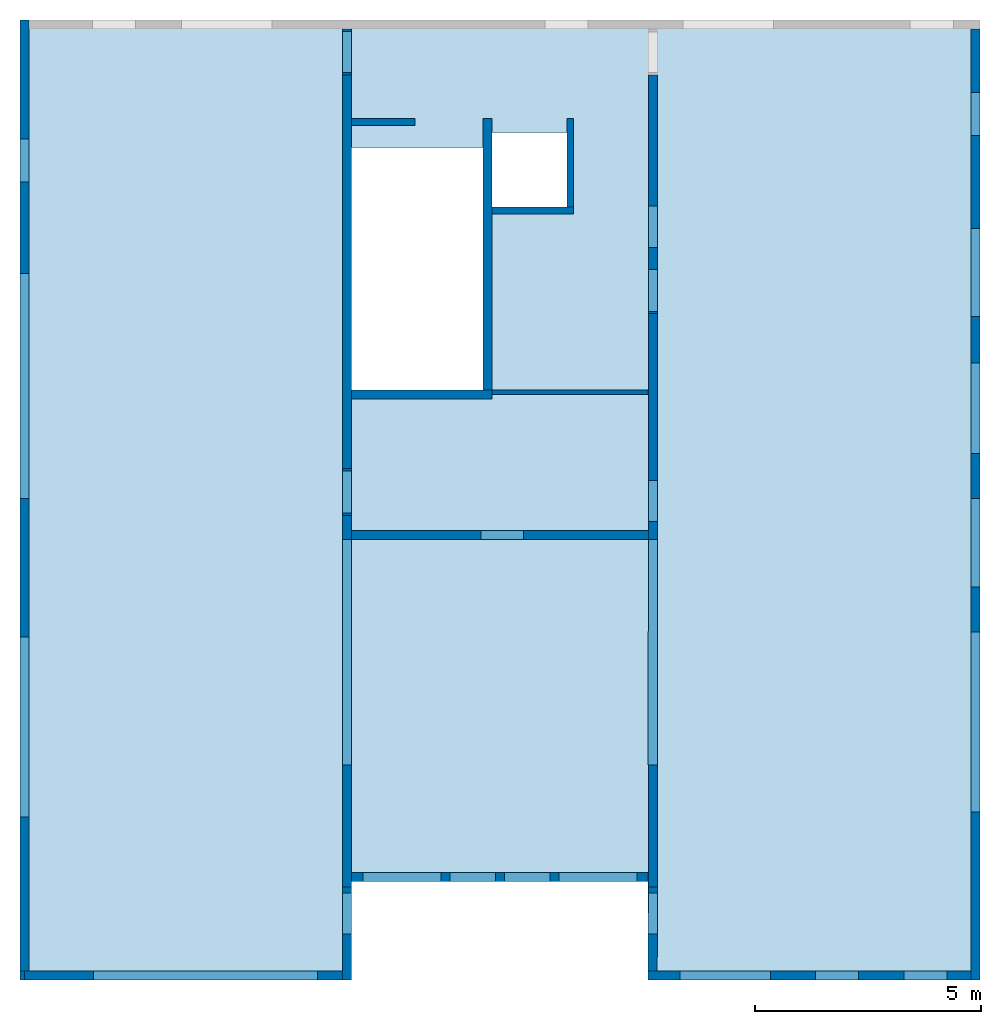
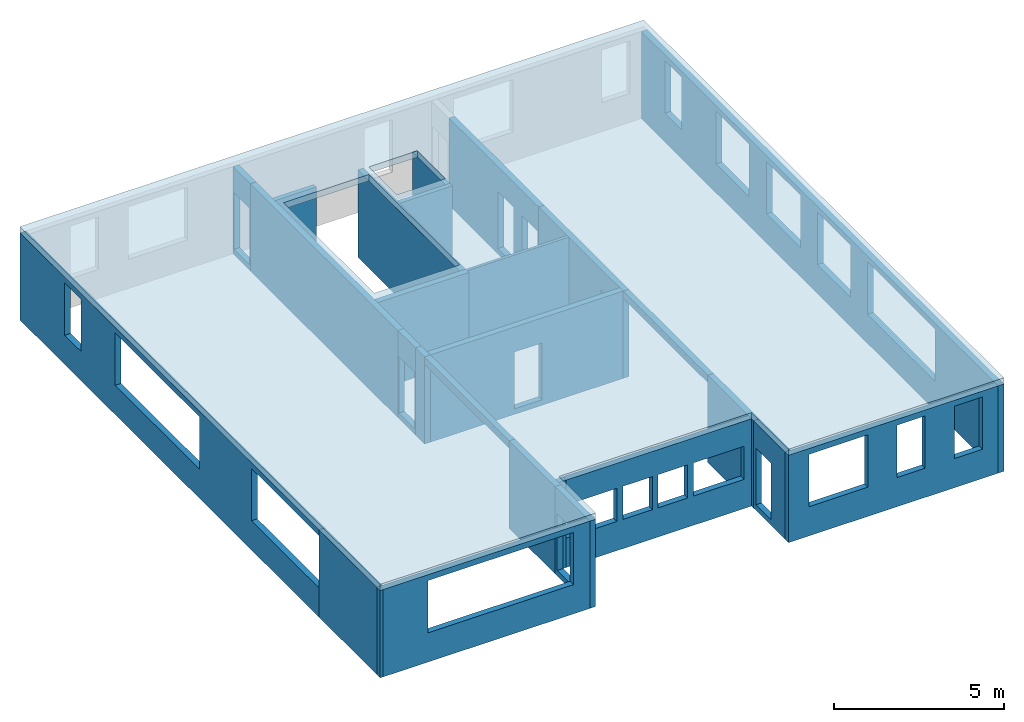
# One storey, part 1 of 2: 25 walls, 2 beams, 1 slab, 27 openings.
"""IFC2X3 building model written with IfcOpenShell, lengths in millimetres."""

from ifc_helpers import new_model, entity, si_unit, converted_unit, frame, frame_2d, origin, origin_with_axes, place, context, subcontext, project, spatial, polyline, rectangle, outline, extrude, material, layer, layer_set, layer_usage, element, save


model = new_model("IFC2X3")

# Units and contexts
model_context = context("Model", 3, precision=1e-05, world=origin())
body_context = subcontext(model_context, "Body", "Model", "MODEL_VIEW")
ifc_project = project(units=[si_unit("LENGTHUNIT", "METRE", prefix="MILLI"), converted_unit("PLANEANGLEUNIT", "DEGREE", entity("IfcPlaneAngleMeasure", 0.0174532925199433), si_unit("PLANEANGLEUNIT", "RADIAN"), dimensions=[0, 0, 0, 0, 0, 0, 0]), si_unit("AREAUNIT", "SQUARE_METRE"), si_unit("VOLUMEUNIT", "CUBIC_METRE")], contexts=[model_context])

# Building, storey
building_placement = place(None, origin())
building = spatial("IfcBuilding", under=ifc_project, at=building_placement, Name="Bâtiment", CompositionType="ELEMENT")
storey_placement = place(building_placement, frame((0.0, 0.0, 14770.0), z_axis=(0.0, 0.0, 1.0), x_axis=(1.0, 0.0, 0.0)))
storey = spatial("IfcBuildingStorey", under=building, at=storey_placement, Name="4. Etage supérieur", CompositionType="ELEMENT", Elevation=14770.0)

# Beams
ifc_material_1 = material(Name="<Unnamed Material>")
beam_1_placement = place(storey_placement, frame((5082.100267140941, -27162.97746051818, 2670.0), z_axis=(0.0, 0.0, 1.0), x_axis=(0.0001049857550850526, 0.9999999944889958, 0.0)))
element("IfcBeam", 1, at=beam_1_placement, inside=storey, material=ifc_material_1, Name="<Unnamed Element>", context=body_context, shape_type="SweptSolid", body=[
    extrude(rectangle(XDim=270.0, YDim=200.0, at=frame_2d((135.0, -100.0), x_axis=(1.0, 0.0))), frame((0.0, 0.0, 0.0), z_axis=(1.0, 0.0, 0.0), x_axis=(0.0, 0.0, 1.0)), (0.0, 0.0, 1.0), 4978.489400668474),
])
ifc_material_2 = material(Name="<Unnamed Material>")
beam_2_placement = place(storey_placement, frame((11831.21400759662, -27162.97746051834, 2670.0), z_axis=(0.0, 0.0, 1.0), x_axis=(0.0001049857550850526, 0.9999999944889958, 0.0)))
element("IfcBeam", 2, at=beam_2_placement, inside=storey, material=ifc_material_2, Name="<Unnamed Element>", context=body_context, shape_type="SweptSolid", body=[
    extrude(rectangle(XDim=270.0, YDim=199.9999999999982, at=frame_2d((135.0, -99.99999999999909), x_axis=(1.0, 0.0))), frame((0.0, 0.0, 0.0), z_axis=(1.0, 0.0, 0.0), x_axis=(0.0, 0.0, 1.0)), (0.0, 0.0, 1.0), 4978.489400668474),
])

# Slab, openings
ifc_material_3 = material(Name="<Unnamed Material>")
ifc_layer_1 = layer(ifc_material_3, 230.0)
ifc_layer_set_1 = layer_set([ifc_layer_1])
ifc_layer_usage_1 = layer_usage(ifc_layer_set_1, "AXIS3", "POSITIVE", 0.0)
slab_placement = place(storey_placement, frame((-2242.186712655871, -10713.57313399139, 2930.0), z_axis=(0.0, 0.0, 1.0), x_axis=(1.0, 0.0, 0.0)))
slab = element("IfcSlab", 3, at=slab_placement, inside=storey, material=ifc_layer_usage_1, Name="<Unnamed Element>", PredefinedType="FLOOR", context=body_context, shape_type="SweptSolid", body=[
    extrude(rectangle(XDim=21199.7794596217, YDim=21199.78053621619, at=frame_2d((10599.89026810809, -10599.88972981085), x_axis=(0.0, -0.9999999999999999))), origin_with_axes(), (0.0, 0.0, 1.0), 230.0),
])
opening_1_placement = place(slab_placement, frame((10423.20173598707, -2481.977777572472, 0.0), z_axis=(0.0, 0.0, 1.0), x_axis=(1.0, 0.0, 0.0)))
element("IfcOpeningElement", 4, at=opening_1_placement, cuts=slab, Name="Trémie dans dalle", ObjectType="Opening", context=body_context, shape_type="SweptSolid", body=[
    extrude(rectangle(XDim=1646.106911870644, YDim=1651.041602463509, at=frame_2d((825.5208012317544, -823.0534559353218), x_axis=(0.0, -1.0))), origin_with_axes(), (0.0, 0.0, 1.0), 230.0),
])
opening_2_placement = place(slab_placement, frame((7325.332321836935, -19029.63685337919, 0.0), z_axis=(0.0, 0.0, 1.0), x_axis=(1.0, 0.0, 0.0)))
element("IfcOpeningElement", 5, at=opening_2_placement, cuts=slab, Name="Trémie dans dalle", ObjectType="Opening", context=body_context, shape_type="SweptSolid", body=[
    extrude(rectangle(XDim=2170.142606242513, YDim=6546.474900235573, at=frame_2d((3273.237450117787, -1085.071303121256), x_axis=(0.0, -1.0))), origin_with_axes(), (0.0, 0.0, 1.0), 230.0),
])
opening_3_placement = place(slab_placement, frame((7324.370955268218, -8168.914292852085, 0.0), z_axis=(0.0, 0.0, 1.0), x_axis=(1.0, 0.0, 0.0)))
element("IfcOpeningElement", 6, at=opening_3_placement, cuts=slab, Name="Trémie dans dalle", ObjectType="Opening", context=body_context, shape_type="SweptSolid", body=[
    extrude(rectangle(XDim=2900.0, YDim=5350.0, at=frame_2d((1450.0, 2675.0), x_axis=(0.9999999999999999, 0.0))), origin_with_axes(), (0.0, 0.0, 1.0), 230.0),
])

# Wall, opening
ifc_material_4 = material(Name="<Unnamed Material>")
ifc_layer_2 = layer(ifc_material_4, 200.0)
ifc_layer_set_2 = layer_set([ifc_layer_2])
ifc_layer_usage_2 = layer_usage(ifc_layer_set_2, "AXIS2", "POSITIVE", -100.0)
wall_1_placement = place(storey_placement, frame((11632.78201900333, -17195.40125277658, -200.0), z_axis=(0.0, 0.0, 1.0), x_axis=(7.29190378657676e-16, -1.0, 0.0)))
wall_1 = element("IfcWallStandardCase", 7, at=wall_1_placement, inside=storey, material=ifc_layer_usage_2, Name="<Unnamed Element>", context=body_context, shape_type="SweptSolid", body=[
    extrude(rectangle(XDim=4989.065837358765, YDim=200.0, at=frame_2d((2494.532918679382, 100.0), x_axis=(1.0, 0.0))), origin_with_axes(), (0.0, 0.0, 1.0), 3140.0),
])
opening_4_placement = place(wall_1_placement, frame((3689.065837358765, 1.818989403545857e-12, 200.0), z_axis=(0.0, 1.0, 0.0), x_axis=(0.0, 0.0, 1.0)))
element("IfcOpeningElement", 8, at=opening_4_placement, cuts=wall_1, Name="Porte-fenêtre", ObjectType="Opening", context=body_context, shape_type="SweptSolid", body=[
    extrude(rectangle(XDim=2200.0, YDim=900.0, at=frame_2d((1100.0, 450.0), x_axis=(1.0, 0.0))), origin_with_axes(), (0.0, 0.0, 1.0), 200.0),
])

ifc_material_5 = material(Name="<Unnamed Material>")
ifc_layer_3 = layer(ifc_material_5, 200.0)
ifc_layer_set_3 = layer_set([ifc_layer_3])
ifc_layer_usage_3 = layer_usage(ifc_layer_set_3, "AXIS2", "POSITIVE", 0.0)
wall_2_placement = place(storey_placement, frame((5083.294107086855, -22184.46709013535, -200.0), z_axis=(0.0, 0.0, 1.0), x_axis=(1.0, 5.554600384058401e-16, 0.0)))
wall_2 = element("IfcWallStandardCase", 9, at=wall_2_placement, inside=storey, material=ifc_layer_usage_3, Name="<Unnamed Element>", context=body_context, shape_type="SweptSolid", body=[
    extrude(rectangle(XDim=6549.48791191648, YDim=200.0, at=frame_2d((3274.74395595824, 100.0), x_axis=(1.0, 0.0))), origin_with_axes(), (0.0, 0.0, 1.0), 3140.0),
])
opening_5_placement = place(wall_2_placement, frame((2859.48791191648, 3.637978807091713e-12, 200.0), z_axis=(0.0, 1.0, 0.0), x_axis=(0.0, 0.0, 1.0)))
element("IfcOpeningElement", 10, at=opening_5_placement, cuts=wall_2, Name="Porte-fenêtre", ObjectType="Opening", context=body_context, shape_type="SweptSolid", body=[
    extrude(rectangle(XDim=2039.999999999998, YDim=929.9999999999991, at=frame_2d((1019.999999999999, 464.9999999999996), x_axis=(1.0, 0.0))), origin_with_axes(), (0.0, 0.0, 1.0), 199.9999999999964),
])

# Walls
ifc_material_6 = material(Name="<Unnamed Material>")
ifc_layer_4 = layer(ifc_material_6, 200.0)
ifc_layer_set_4 = layer_set([ifc_layer_4])
ifc_layer_usage_4 = layer_usage(ifc_layer_set_4, "AXIS2", "POSITIVE", -100.0)
wall_3_placement = place(storey_placement, frame((4882.622938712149, -11933.31105644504, -200.0), z_axis=(0.0, 0.0, 1.0), x_axis=(4.187886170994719e-16, -1.0, 0.0)))
element("IfcWallStandardCase", 11, at=wall_3_placement, inside=storey, material=ifc_layer_usage_4, Name="<Unnamed Element>", context=body_context, shape_type="SweptSolid", body=[
    extrude(outline(polyline([(0.0, 0.0), (8686.909477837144, 0.0), (8686.909477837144, 200.0), (7152.32309978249, 199.9999999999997), (7152.32309978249, 199.5182401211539), (6952.32309978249, 199.518240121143), (6952.32309978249, 199.9999999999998), (8.375772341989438e-14, 200.0), (0.0, 0.0)])), origin_with_axes(), (0.0, 0.0, 1.0), 3140.0),
])
ifc_material_7 = material(Name="<Unnamed Material>")
ifc_layer_5 = layer(ifc_material_7, 200.0)
ifc_layer_set_5 = layer_set([ifc_layer_5])
ifc_layer_usage_5 = layer_usage(ifc_layer_set_5, "AXIS2", "POSITIVE", -100.0)
wall_4_placement = place(storey_placement, frame((4882.622938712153, -21651.10432615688, -200.0), z_axis=(0.0, 0.0, 1.0), x_axis=(-1.841625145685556e-13, -0.9999999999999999, 0.0)))
element("IfcWallStandardCase", 12, at=wall_4_placement, inside=storey, material=ifc_layer_usage_5, Name="<Unnamed Element>", context=body_context, shape_type="SweptSolid", body=[
    extrude(outline(polyline([(0.0, 0.0), (533.3627639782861, 1.292469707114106e-26), (533.3627639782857, 200.0), (-0.04673482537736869, 200.0), (0.04673481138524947, 2.184143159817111e-05), (0.0, 0.0)])), origin_with_axes(), (0.0, 0.0, 1.0), 3140.0),
])

# Wall, opening
ifc_material_8 = material(Name="<Unnamed Material>")
ifc_layer_6 = layer(ifc_material_8, 200.0000000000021)
ifc_layer_set_6 = layer_set([ifc_layer_6])
ifc_layer_usage_6 = layer_usage(ifc_layer_set_6, "AXIS2", "POSITIVE", -200.0)
wall_5_placement = place(storey_placement, frame((4882.141200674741, -20620.31400391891, -200.0), z_axis=(0.0, 0.0, 1.0), x_axis=(0.0004673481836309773, -0.9999998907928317, 0.0)))
wall_5 = element("IfcWallStandardCase", 13, at=wall_5_placement, inside=storey, material=ifc_layer_usage_6, Name="<Unnamed Element>", context=body_context, shape_type="SweptSolid", body=[
    extrude(rectangle(XDim=1030.837169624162, YDim=200.0000000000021, at=frame_2d((515.4185848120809, 100.000000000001), x_axis=(1.0, 0.0))), origin_with_axes(), (0.0, 0.0, 1.0), 3140.0),
])
opening_6_placement = place(wall_5_placement, frame((50.06475455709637, 3.337087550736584e-13, 200.0), z_axis=(0.0, 1.0, 0.0), x_axis=(0.0, 0.0, 1.0)))
element("IfcOpeningElement", 14, at=opening_6_placement, cuts=wall_5, Name="Porte-fenêtre", ObjectType="Opening", context=body_context, shape_type="SweptSolid", body=[
    extrude(rectangle(XDim=2039.999999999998, YDim=930.0, at=frame_2d((1019.999999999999, 465.0), x_axis=(1.0, 0.0))), origin_with_axes(), (0.0, 0.0, 1.0), 200.0000000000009),
])

ifc_material_9 = material(Name="<Unnamed Material>")
ifc_layer_7 = layer(ifc_material_9, 200.0)
ifc_layer_set_7 = layer_set([ifc_layer_7])
ifc_layer_usage_7 = layer_usage(ifc_layer_set_7, "AXIS2", "POSITIVE", -200.0)
wall_6_placement = place(storey_placement, frame((5083.145609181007, -11933.31105644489, -200.0), z_axis=(0.0, 0.0, 1.0), x_axis=(5.348602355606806e-14, 1.0, 0.0)))
wall_6 = element("IfcWallStandardCase", 15, at=wall_6_placement, inside=storey, material=ifc_layer_usage_7, Name="<Unnamed Element>", context=body_context, shape_type="SweptSolid", body=[
    extrude(rectangle(XDim=1020.260592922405, YDim=200.0, at=frame_2d((510.1302964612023, 100.0), x_axis=(1.0, 0.0))), origin_with_axes(), (0.0, 0.0, 1.0), 3140.0),
])
opening_7_placement = place(wall_6_placement, frame((61.31246848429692, -3.479402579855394e-13, 200.0), z_axis=(0.0, 1.0, 0.0), x_axis=(0.0, 0.0, 1.0)))
element("IfcOpeningElement", 16, at=opening_7_placement, cuts=wall_6, Name="Porte-fenêtre", ObjectType="Opening", context=body_context, shape_type="SweptSolid", body=[
    extrude(rectangle(XDim=2040.0, YDim=900.0, at=frame_2d((1020.0, 450.0), x_axis=(1.0, 0.0))), origin_with_axes(), (0.0, 0.0, 1.0), 200.0),
])

# Walls
ifc_material_10 = material(Name="<Unnamed Material>")
ifc_layer_8 = layer(ifc_material_10, 150.0)
ifc_layer_set_8 = layer_set([ifc_layer_8])
ifc_layer_usage_8 = layer_usage(ifc_layer_set_8, "AXIS2", "POSITIVE", -150.0)
wall_7_placement = place(storey_placement, frame((5082.622938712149, -13042.14332178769, -200.0), z_axis=(0.0, 0.0, 1.0), x_axis=(1.0, 0.0, 0.0)))
element("IfcWallStandardCase", 17, at=wall_7_placement, inside=storey, material=ifc_layer_usage_8, Name="<Unnamed Element>", context=body_context, shape_type="SweptSolid", body=[
    extrude(rectangle(XDim=1398.645348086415, YDim=150.0, at=frame_2d((699.3226740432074, 75.0), x_axis=(1.0, 0.0))), origin_with_axes(), (0.0, 0.0, 1.0), 3140.0),
])
ifc_material_11 = material(Name="<Unnamed Material>")
ifc_layer_9 = layer(ifc_material_11, 200.0)
ifc_layer_set_9 = layer_set([ifc_layer_9])
ifc_layer_usage_9 = layer_usage(ifc_layer_set_9, "AXIS2", "POSITIVE", 0.0)
wall_8_placement = place(storey_placement, frame((5082.141178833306, -19085.63415622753, -200.0), z_axis=(0.0, 0.0, 1.0), x_axis=(1.0, 4.810060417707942e-14, 0.0)))
element("IfcWallStandardCase", 18, at=wall_8_placement, inside=storey, material=ifc_layer_usage_9, Name="<Unnamed Element>", context=body_context, shape_type="SweptSolid", body=[
    extrude(rectangle(XDim=3100.940905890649, YDim=200.0, at=frame_2d((1550.470452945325, 100.0), x_axis=(1.0, 0.0))), origin_with_axes(), (0.0, 0.0, 1.0), 3140.0),
])
ifc_material_12 = material(Name="<Unnamed Material>")
ifc_layer_10 = layer(ifc_material_12, 200.0)
ifc_layer_set_10 = layer_set([ifc_layer_10])
ifc_layer_usage_10 = layer_usage(ifc_layer_set_10, "AXIS2", "POSITIVE", 0.0)
wall_9_placement = place(storey_placement, frame((8183.082084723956, -18885.63415622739, -200.0), z_axis=(0.0, 0.0, 1.0), x_axis=(4.855906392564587e-15, 1.0, 0.0)))
element("IfcWallStandardCase", 19, at=wall_9_placement, inside=storey, material=ifc_layer_usage_10, Name="<Unnamed Element>", context=body_context, shape_type="SweptSolid", body=[
    extrude(rectangle(XDim=5993.490834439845, YDim=200.0, at=frame_2d((2996.745417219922, 100.0), x_axis=(1.0, 0.0))), origin_with_axes(), (0.0, 0.0, 1.0), 3140.0),
])
ifc_material_13 = material(Name="<Unnamed Material>")
ifc_layer_11 = layer(ifc_material_13, 150.0)
ifc_layer_set_11 = layer_set([ifc_layer_11])
ifc_layer_usage_11 = layer_usage(ifc_layer_set_11, "AXIS2", "POSITIVE", 0.0)
wall_10_placement = place(storey_placement, frame((8183.082084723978, -14994.05407781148, -200.0), z_axis=(0.0, 0.0, 1.0), x_axis=(1.0, -3.033025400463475e-15, 0.0)))
element("IfcWallStandardCase", 20, at=wall_10_placement, inside=storey, material=ifc_layer_usage_11, Name="<Unnamed Element>", context=body_context, shape_type="SweptSolid", body=[
    extrude(rectangle(XDim=1799.183155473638, YDim=150.0, at=frame_2d((899.5915777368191, 75.0), x_axis=(1.0, 0.0))), origin_with_axes(), (0.0, 0.0, 1.0), 3140.0),
])
ifc_material_14 = material(Name="<Unnamed Material>")
ifc_layer_12 = layer(ifc_material_14, 150.0)
ifc_layer_set_12 = layer_set([ifc_layer_12])
ifc_layer_usage_12 = layer_usage(ifc_layer_set_12, "AXIS2", "POSITIVE", 0.0)
wall_11_placement = place(storey_placement, frame((9982.265240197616, -14844.05407781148, -200.0), z_axis=(0.0, 0.0, 1.0), x_axis=(7.455215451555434e-15, 1.0, 0.0)))
element("IfcWallStandardCase", 21, at=wall_11_placement, inside=storey, material=ifc_layer_usage_12, Name="<Unnamed Element>", context=body_context, shape_type="SweptSolid", body=[
    extrude(rectangle(XDim=1951.91075602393, YDim=150.0, at=frame_2d((975.955378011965, 75.0), x_axis=(1.0, 0.0))), origin_with_axes(), (0.0, 0.0, 1.0), 3140.0),
])
ifc_material_15 = material(Name="<Unnamed Material>")
ifc_layer_13 = layer(ifc_material_15, 200.0)
ifc_layer_set_13 = layer_set([ifc_layer_13])
ifc_layer_usage_13 = layer_usage(ifc_layer_set_13, "AXIS2", "POSITIVE", -100.0)
wall_12_placement = place(storey_placement, frame((-2042.186712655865, -31713.35259361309, -200.0), z_axis=(0.0, 0.0, 1.0), x_axis=(-5.348337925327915e-16, 1.0, 0.0)))
element("IfcWallStandardCase", 22, at=wall_12_placement, inside=storey, material=ifc_layer_usage_13, Name="<Unnamed Element>", context=body_context, shape_type="SweptSolid", body=[
    extrude(rectangle(XDim=3401.036787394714, YDim=200.0, at=frame_2d((1700.518393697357, 100.0), x_axis=(1.0, 0.0))), origin_with_axes(), (0.0, 0.0, 1.0), 3140.0),
])

# Wall, opening
ifc_material_16 = material(Name="<Unnamed Material>")
ifc_layer_14 = layer(ifc_material_16, 200.0)
ifc_layer_set_14 = layer_set([ifc_layer_14])
ifc_layer_usage_14 = layer_usage(ifc_layer_set_14, "AXIS2", "POSITIVE", -100.0)
wall_13_placement = place(storey_placement, frame((4882.1411788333, -31713.35259361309, -200.0), z_axis=(0.0, 0.0, 1.0), x_axis=(-1.0, 0.0, 0.0)))
wall_13 = element("IfcWallStandardCase", 23, at=wall_13_placement, inside=storey, material=ifc_layer_usage_14, Name="<Unnamed Element>", context=body_context, shape_type="SweptSolid", body=[
    extrude(outline(polyline([(0.0, 0.0), (7024.327891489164, 0.0), (7024.327891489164, 200.0), (-0.4817598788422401, 200.0), (-0.4817598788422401, 199.4773295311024), (-1.364242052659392e-11, 199.4773295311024), (0.0, 0.0)])), origin_with_axes(), (0.0, 0.0, 1.0), 3140.0),
])
opening_8_placement = place(wall_13_placement, frame((550.0000000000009, 0.0, 1050.0), z_axis=(0.0, 1.0, 0.0), x_axis=(0.0, 0.0, 1.0)))
element("IfcOpeningElement", 24, at=opening_8_placement, cuts=wall_13, Name="Baie de fenêtre", ObjectType="Opening", context=body_context, shape_type="SweptSolid", body=[
    extrude(rectangle(XDim=1880.0, YDim=4950.0, at=frame_2d((940.0, 2475.0), x_axis=(1.0, 0.0))), origin_with_axes(), (0.0, 0.0, 1.0), 200.0),
])

ifc_material_17 = material(Name="<Unnamed Material>")
ifc_layer_15 = layer(ifc_material_17, 200.0)
ifc_layer_set_15 = layer_set([ifc_layer_15])
ifc_layer_usage_15 = layer_usage(ifc_layer_set_15, "AXIS2", "POSITIVE", -200.0)
wall_14_placement = place(storey_placement, frame((4882.141178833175, -29863.87900255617, -200.0), z_axis=(0.0, 0.0, 1.0), x_axis=(6.747023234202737e-14, -1.0, 0.0)))
wall_14 = element("IfcWallStandardCase", 25, at=wall_14_placement, inside=storey, material=ifc_layer_usage_15, Name="<Unnamed Element>", context=body_context, shape_type="SweptSolid", body=[
    extrude(rectangle(XDim=2048.950920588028, YDim=200.0, at=frame_2d((1024.475460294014, 100.0), x_axis=(1.0, 0.0))), origin_with_axes(), (0.0, 0.0, 1.0), 3140.0),
])
opening_9_placement = place(wall_14_placement, frame((128.6892510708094, 4.338248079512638e-13, 200.0), z_axis=(0.0, 1.0, 0.0), x_axis=(0.0, 0.0, 1.0)))
element("IfcOpeningElement", 26, at=opening_9_placement, cuts=wall_14, Name="Porte-fenêtre", ObjectType="Opening", context=body_context, shape_type="SweptSolid", body=[
    extrude(rectangle(XDim=2040.0, YDim=900.0, at=frame_2d((1020.0, 450.0), x_axis=(1.0, 0.0))), origin_with_axes(), (0.0, 0.0, 1.0), 200.0),
])

# Wall, openings
ifc_material_18 = material(Name="<Unnamed Material>")
ifc_layer_16 = layer(ifc_material_18, 200.0)
ifc_layer_set_16 = layer_set([ifc_layer_16])
ifc_layer_usage_16 = layer_usage(ifc_layer_set_16, "AXIS2", "POSITIVE", 0.0)
wall_15_placement = place(storey_placement, frame((5331.908943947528, -29743.20998737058, -200.0), z_axis=(0.0, 0.0, 1.0), x_axis=(0.9999999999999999, 5.775220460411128e-16, 0.0)))
wall_15 = element("IfcWallStandardCase", 27, at=wall_15_placement, inside=storey, material=ifc_layer_usage_16, Name="<Unnamed Element>", context=body_context, shape_type="SweptSolid", body=[
    extrude(rectangle(XDim=6299.289926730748, YDim=200.0, at=frame_2d((3149.644963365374, 99.99999999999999), x_axis=(1.0, 0.0))), origin_with_axes(), (0.0, 0.0, 1.0), 3140.0),
])
opening_10_placement = place(wall_15_placement, frame((1926.173933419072, 0.0, 1050.0), z_axis=(0.0, 1.0, 0.0), x_axis=(0.0, 0.0, 1.0)))
element("IfcOpeningElement", 28, at=opening_10_placement, cuts=wall_15, Name="Baie de fenêtre", ObjectType="Opening", context=body_context, shape_type="SweptSolid", body=[
    extrude(rectangle(XDim=1190.0, YDim=1000.0, at=frame_2d((595.0, 500.0), x_axis=(1.0, 0.0))), origin_with_axes(), (0.0, 0.0, 1.0), 200.0),
])
opening_11_placement = place(wall_15_placement, frame((3126.346382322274, 0.0, 1050.0), z_axis=(0.0, 1.0, 0.0), x_axis=(0.0, 0.0, 1.0)))
element("IfcOpeningElement", 29, at=opening_11_placement, cuts=wall_15, Name="Baie de fenêtre", ObjectType="Opening", context=body_context, shape_type="SweptSolid", body=[
    extrude(rectangle(XDim=1190.0, YDim=1000.0, at=frame_2d((595.0, 500.0), x_axis=(1.0, 0.0))), origin_with_axes(), (0.0, 0.0, 1.0), 200.0),
])
opening_12_placement = place(wall_15_placement, frame((4324.501437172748, 3.637978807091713e-12, 1050.0), z_axis=(0.0, 1.0, 0.0), x_axis=(0.0, 0.0, 1.0)))
element("IfcOpeningElement", 30, at=opening_12_placement, cuts=wall_15, Name="Baie de fenêtre", ObjectType="Opening", context=body_context, shape_type="SweptSolid", body=[
    extrude(rectangle(XDim=1189.999999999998, YDim=1725.0, at=frame_2d((594.9999999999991, 862.5), x_axis=(1.0, 0.0))), origin_with_axes(), (0.0, 0.0, 1.0), 200.0),
])
opening_13_placement = place(wall_15_placement, frame((0.07469816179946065, 0.0, 1050.0), z_axis=(0.0, 1.0, 0.0), x_axis=(0.0, 0.0, 1.0)))
element("IfcOpeningElement", 31, at=opening_13_placement, cuts=wall_15, Name="Baie de fenêtre", ObjectType="Opening", context=body_context, shape_type="SweptSolid", body=[
    extrude(rectangle(XDim=1189.999999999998, YDim=1725.0, at=frame_2d((594.9999999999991, 862.5), x_axis=(1.0, 0.0))), origin_with_axes(), (0.0, 0.0, 1.0), 200.0),
])

# Wall, opening
ifc_material_19 = material(Name="<Unnamed Material>")
ifc_layer_17 = layer(ifc_material_19, 200.0000000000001)
ifc_layer_set_17 = layer_set([ifc_layer_17])
ifc_layer_usage_17 = layer_usage(ifc_layer_set_17, "AXIS2", "POSITIVE", -200.0)
wall_16_placement = place(storey_placement, frame((11632.25951429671, -29863.62150510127, -200.0), z_axis=(0.0, 0.0, 1.0), x_axis=(-0.001287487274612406, -0.9999991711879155, 0.0)))
wall_16 = element("IfcWallStandardCase", 32, at=wall_16_placement, inside=storey, material=ifc_layer_usage_17, Name="<Unnamed Element>", context=body_context, shape_type="SweptSolid", body=[
    extrude(outline(polyline([(0.0, 0.0), (1849.732621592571, 0.0), (1849.475123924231, 200.0000000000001), (-1.814937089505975e-12, 200.0000000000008), (0.0, 0.0)])), origin_with_axes(), (0.0, 0.0, 1.0), 3140.0),
])
opening_14_placement = place(wall_16_placement, frame((128.6901036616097, 5.17058618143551e-13, 200.0), z_axis=(0.0, 1.0, 0.0), x_axis=(0.0, 0.0, 1.0)))
element("IfcOpeningElement", 33, at=opening_14_placement, cuts=wall_16, Name="Porte-fenêtre", ObjectType="Opening", context=body_context, shape_type="SweptSolid", body=[
    extrude(rectangle(XDim=2040.0, YDim=900.0, at=frame_2d((1020.0, 450.0), x_axis=(1.0, 0.0))), origin_with_axes(), (0.0, 0.0, 1.0), 200.0000000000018),
])

# Wall
ifc_material_20 = material(Name="<Unnamed Material>")
ifc_layer_18 = layer(ifc_material_20, 200.0)
ifc_layer_set_18 = layer_set([ifc_layer_18])
ifc_layer_usage_18 = layer_usage(ifc_layer_set_18, "AXIS2", "POSITIVE", 0.0)
wall_17_placement = place(storey_placement, frame((4883.145609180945, -27162.95646336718, -200.0), z_axis=(0.0, 0.0, 1.0), x_axis=(4.579593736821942e-14, -0.9999999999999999, 0.0)))
element("IfcWallStandardCase", 34, at=wall_17_placement, inside=storey, material=ifc_layer_usage_18, Name="<Unnamed Element>", context=body_context, shape_type="SweptSolid", body=[
    extrude(outline(polyline([(0.0, 0.0), (2700.922539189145, -2.584939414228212e-26), (2700.922539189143, 200.0), (2580.25352400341, 200.0), (2580.25352400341, 198.9955696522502), (2380.25352400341, 198.9955696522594), (2380.25352400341, 200.0000000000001), (-1.754748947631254e-12, 200.0), (0.0, 0.0)])), origin_with_axes(), (0.0, 0.0, 1.0), 3140.0),
])

# Wall, openings
ifc_material_21 = material(Name="<Unnamed Material>")
ifc_layer_19 = layer(ifc_material_21, 200.0)
ifc_layer_set_19 = layer_set([ifc_layer_19])
ifc_layer_usage_19 = layer_usage(ifc_layer_set_19, "AXIS2", "POSITIVE", -100.0)
wall_18_placement = place(storey_placement, frame((18757.59382356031, -31713.35259361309, -200.0), z_axis=(0.0, 0.0, 1.0), x_axis=(-0.9999999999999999, 0.0, 0.0)))
wall_18 = element("IfcWallStandardCase", 35, at=wall_18_placement, inside=storey, material=ifc_layer_usage_19, Name="<Unnamed Element>", context=body_context, shape_type="SweptSolid", body=[
    extrude(outline(polyline([(0.0, 0.0), (7127.715816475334, 0.0), (7127.973314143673, 200.0), (0.0, 200.0), (0.0, 0.0)])), origin_with_axes(), (0.0, 0.0, 1.0), 3140.0),
])
opening_15_placement = place(wall_18_placement, frame((527.9738943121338, 0.0, 1050.0), z_axis=(0.0, 1.0, 0.0), x_axis=(0.0, 0.0, 1.0)))
element("IfcOpeningElement", 36, at=opening_15_placement, cuts=wall_18, Name="Baie de fenêtre", ObjectType="Opening", context=body_context, shape_type="SweptSolid", body=[
    extrude(rectangle(XDim=1880.0, YDim=950.0, at=frame_2d((940.0, 475.0), x_axis=(1.0, 0.0))), origin_with_axes(), (0.0, 0.0, 1.0), 200.0),
])
opening_16_placement = place(wall_18_placement, frame((2477.973894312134, 0.0, 1050.0), z_axis=(0.0, 1.0, 0.0), x_axis=(0.0, 0.0, 1.0)))
element("IfcOpeningElement", 37, at=opening_16_placement, cuts=wall_18, Name="Baie de fenêtre", ObjectType="Opening", context=body_context, shape_type="SweptSolid", body=[
    extrude(rectangle(XDim=1880.0, YDim=950.0, at=frame_2d((940.0, 475.0), x_axis=(1.0, 0.0))), origin_with_axes(), (0.0, 0.0, 1.0), 200.0),
])
opening_17_placement = place(wall_18_placement, frame((4427.973894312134, 0.0, 1050.0), z_axis=(0.0, 1.0, 0.0), x_axis=(0.0, 0.0, 1.0)))
element("IfcOpeningElement", 38, at=opening_17_placement, cuts=wall_18, Name="Baie de fenêtre", ObjectType="Opening", context=body_context, shape_type="SweptSolid", body=[
    extrude(rectangle(XDim=1880.0, YDim=2000.0, at=frame_2d((940.0, 1000.0), x_axis=(1.0, 0.0))), origin_with_axes(), (0.0, 0.0, 1.0), 200.0),
])

ifc_material_22 = material(Name="<Unnamed Material>")
ifc_layer_20 = layer(ifc_material_22, 200.0)
ifc_layer_set_20 = layer_set([ifc_layer_20])
ifc_layer_usage_20 = layer_usage(ifc_layer_set_20, "AXIS2", "POSITIVE", -100.0)
wall_19_placement = place(storey_placement, frame((18757.59382356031, -10913.57313399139, -200.0), z_axis=(0.0, 0.0, 1.0), x_axis=(0.0, -1.0, 0.0)))
wall_19 = element("IfcWallStandardCase", 39, at=wall_19_placement, inside=storey, material=ifc_layer_usage_20, Name="<Unnamed Element>", context=body_context, shape_type="SweptSolid", body=[
    extrude(rectangle(XDim=20999.7794596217, YDim=200.0, at=frame_2d((10499.88972981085, 100.0), x_axis=(1.0, 0.0))), origin_with_axes(), (0.0, 0.0, 1.0), 3140.0),
])
opening_18_placement = place(wall_19_placement, frame((13320.0, 0.0, 1050.0), z_axis=(0.0, 1.0, 0.0), x_axis=(0.0, 0.0, 1.0)))
element("IfcOpeningElement", 40, at=opening_18_placement, cuts=wall_19, Name="Baie de fenêtre", ObjectType="Opening", context=body_context, shape_type="SweptSolid", body=[
    extrude(rectangle(XDim=1880.0, YDim=3975.0, at=frame_2d((940.0, 1987.5), x_axis=(1.0, 0.0))), origin_with_axes(), (0.0, 0.0, 1.0), 200.0),
])
opening_19_placement = place(wall_19_placement, frame((10370.0, 0.0, 1050.0), z_axis=(0.0, 1.0, 0.0), x_axis=(0.0, 0.0, 1.0)))
element("IfcOpeningElement", 41, at=opening_19_placement, cuts=wall_19, Name="Baie de fenêtre", ObjectType="Opening", context=body_context, shape_type="SweptSolid", body=[
    extrude(rectangle(XDim=1880.0, YDim=1950.0, at=frame_2d((940.0, 975.0), x_axis=(1.0, 0.0))), origin_with_axes(), (0.0, 0.0, 1.0), 200.0),
])
opening_20_placement = place(wall_19_placement, frame((7370.0, 0.0, 1050.0), z_axis=(0.0, 1.0, 0.0), x_axis=(0.0, 0.0, 1.0)))
element("IfcOpeningElement", 42, at=opening_20_placement, cuts=wall_19, Name="Baie de fenêtre", ObjectType="Opening", context=body_context, shape_type="SweptSolid", body=[
    extrude(rectangle(XDim=1880.0, YDim=2000.0, at=frame_2d((940.0, 1000.0), x_axis=(1.0, 0.0))), origin_with_axes(), (0.0, 0.0, 1.0), 200.0),
])
opening_21_placement = place(wall_19_placement, frame((4400.0, 0.0, 1050.0), z_axis=(0.0, 1.0, 0.0), x_axis=(0.0, 0.0, 1.0)))
element("IfcOpeningElement", 43, at=opening_21_placement, cuts=wall_19, Name="Baie de fenêtre", ObjectType="Opening", context=body_context, shape_type="SweptSolid", body=[
    extrude(rectangle(XDim=1880.0, YDim=1950.0, at=frame_2d((940.0, 975.0), x_axis=(1.0, 0.0))), origin_with_axes(), (0.0, 0.0, 1.0), 200.0),
])
opening_22_placement = place(wall_19_placement, frame((1400.0, 0.0, 1050.0), z_axis=(0.0, 1.0, 0.0), x_axis=(0.0, 0.0, 1.0)))
element("IfcOpeningElement", 44, at=opening_22_placement, cuts=wall_19, Name="Baie de fenêtre", ObjectType="Opening", context=body_context, shape_type="SweptSolid", body=[
    extrude(rectangle(XDim=1880.0, YDim=950.0, at=frame_2d((940.0, 475.0), x_axis=(1.0, 0.0))), origin_with_axes(), (0.0, 0.0, 1.0), 200.0),
])

# Walls
ifc_material_23 = material(Name="<Unnamed Material>")
ifc_layer_21 = layer(ifc_material_23, 200.0)
ifc_layer_set_21 = layer_set([ifc_layer_21])
ifc_layer_usage_21 = layer_usage(ifc_layer_set_21, "AXIS2", "POSITIVE", -100.0)
wall_20_placement = place(storey_placement, frame((-2142.186712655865, -31713.35259361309, -200.0), z_axis=(0.0, 0.0, 1.0), x_axis=(-1.0, 0.0, 0.0)))
element("IfcWallStandardCase", 45, at=wall_20_placement, inside=storey, material=ifc_layer_usage_21, Name="<Unnamed Element>", context=body_context, shape_type="SweptSolid", body=[
    extrude(rectangle(XDim=100.0, YDim=200.0, at=frame_2d((50.0, 100.0), x_axis=(1.0, 0.0))), origin_with_axes(), (0.0, 0.0, 1.0), 3140.0),
])
ifc_material_24 = material(Name="<Unnamed Material>")
ifc_layer_22 = layer(ifc_material_24, 200.0)
ifc_layer_set_22 = layer_set([ifc_layer_22])
ifc_layer_usage_22 = layer_usage(ifc_layer_set_22, "AXIS2", "POSITIVE", 0.0)
wall_21_placement = place(storey_placement, frame((11832.2593485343, -29863.87900255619, -200.0), z_axis=(0.0, 0.0, 1.0), x_axis=(4.714287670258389e-14, 0.9999999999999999, 0.0)))
element("IfcWallStandardCase", 46, at=wall_21_placement, inside=storey, material=ifc_layer_usage_22, Name="<Unnamed Element>", context=body_context, shape_type="SweptSolid", body=[
    extrude(outline(polyline([(0.0, 0.0), (2700.922539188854, 2.584939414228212e-26), (2700.922539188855, 200.0), (0.1287487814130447, 200.0), (0.2574974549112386, 199.9998342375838), (0.0, 0.0)])), origin_with_axes(), (0.0, 0.0, 1.0), 3140.0),
])
ifc_material_25 = material(Name="<Unnamed Material>")
ifc_layer_23 = layer(ifc_material_25, 200.0)
ifc_layer_set_23 = layer_set([ifc_layer_23])
ifc_layer_usage_23 = layer_usage(ifc_layer_set_23, "AXIS2", "POSITIVE", 0.0)
wall_22_placement = place(storey_placement, frame((5082.141178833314, -29743.20998737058, -200.0), z_axis=(0.0, 0.0, 1.0), x_axis=(0.9999999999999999, 0.0, 0.0)))
element("IfcWallStandardCase", 47, at=wall_22_placement, inside=storey, material=ifc_layer_usage_23, Name="<Unnamed Element>", context=body_context, shape_type="SweptSolid", body=[
    extrude(rectangle(XDim=249.7677651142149, YDim=200.0, at=frame_2d((124.8838825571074, 99.99999999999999), x_axis=(1.0, 0.0))), origin_with_axes(), (0.0, 0.0, 1.0), 3140.0),
])

# Wall, openings
ifc_material_26 = material(Name="<Unnamed Material>")
ifc_layer_24 = layer(ifc_material_26, 200.0)
ifc_layer_set_24 = layer_set([ifc_layer_24])
ifc_layer_usage_24 = layer_usage(ifc_layer_set_24, "AXIS2", "POSITIVE", -100.0)
wall_23_placement = place(storey_placement, frame((11832.78201900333, -17195.40125277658, -200.0), z_axis=(0.0, 0.0, 1.0), x_axis=(0.0, 1.0, 0.0)))
wall_23 = element("IfcWallStandardCase", 48, at=wall_23_placement, inside=storey, material=ifc_layer_usage_24, Name="<Unnamed Element>", context=body_context, shape_type="SweptSolid", body=[
    extrude(rectangle(XDim=5262.090196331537, YDim=200.0, at=frame_2d((2631.045098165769, 100.0), x_axis=(1.0, 0.0))), origin_with_axes(), (0.0, 0.0, 1.0), 3140.0),
])
opening_23_placement = place(wall_23_placement, frame((1459.148905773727, 0.0, 200.0), z_axis=(0.0, 1.0, 0.0), x_axis=(0.0, 0.0, 1.0)))
element("IfcOpeningElement", 49, at=opening_23_placement, cuts=wall_23, Name="Porte-fenêtre", ObjectType="Opening", context=body_context, shape_type="SweptSolid", body=[
    extrude(rectangle(XDim=2040.0, YDim=920.0, at=frame_2d((1020.0, 460.0), x_axis=(1.0, 0.0))), origin_with_axes(), (0.0, 0.0, 1.0), 200.0),
])
opening_24_placement = place(wall_23_placement, frame((48.35450415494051, 0.0, 200.0), z_axis=(0.0, 1.0, 0.0), x_axis=(0.0, 0.0, 1.0)))
element("IfcOpeningElement", 50, at=opening_24_placement, cuts=wall_23, Name="Porte-fenêtre", ObjectType="Opening", context=body_context, shape_type="SweptSolid", body=[
    extrude(rectangle(XDim=2040.0, YDim=920.0, at=frame_2d((1020.0, 460.0), x_axis=(1.0, 0.0))), origin_with_axes(), (0.0, 0.0, 1.0), 200.0),
])

ifc_material_27 = material(Name="<Unnamed Material>")
ifc_layer_25 = layer(ifc_material_27, 200.0)
ifc_layer_set_25 = layer_set([ifc_layer_25])
ifc_layer_usage_25 = layer_usage(ifc_layer_set_25, "AXIS2", "POSITIVE", -100.0)
wall_24_placement = place(storey_placement, frame((-2042.186712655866, -28312.31580621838, -200.0), z_axis=(0.0, 0.0, 1.0), x_axis=(-3.100771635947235e-16, 1.0, 0.0)))
wall_24 = element("IfcWallStandardCase", 51, at=wall_24_placement, inside=storey, material=ifc_layer_usage_25, Name="<Unnamed Element>", context=body_context, shape_type="SweptSolid", body=[
    extrude(rectangle(XDim=17598.74267222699, YDim=200.0, at=frame_2d((8799.371336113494, 100.0), x_axis=(1.0, 0.0))), origin_with_axes(), (0.0, 0.0, 1.0), 3140.0),
])
opening_25_placement = place(wall_24_placement, frame((14017.54293734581, 2.269747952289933e-12, 1050.0), z_axis=(0.0, 1.0, 0.0), x_axis=(0.0, 0.0, 1.0)))
element("IfcOpeningElement", 52, at=opening_25_placement, cuts=wall_24, Name="Baie de fenêtre", ObjectType="Opening", context=body_context, shape_type="SweptSolid", body=[
    extrude(rectangle(XDim=1880.0, YDim=950.0, at=frame_2d((940.0, 475.0), x_axis=(1.0, 0.0))), origin_with_axes(), (0.0, 0.0, 1.0), 199.9999999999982),
])
opening_26_placement = place(wall_24_placement, frame((7027.54293734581, 2.211111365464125e-13, 1050.0), z_axis=(0.0, 1.0, 0.0), x_axis=(0.0, 0.0, 1.0)))
element("IfcOpeningElement", 53, at=opening_26_placement, cuts=wall_24, Name="Baie de fenêtre", ObjectType="Opening", context=body_context, shape_type="SweptSolid", body=[
    extrude(rectangle(XDim=1880.0, YDim=4970.0, at=frame_2d((940.0, 2485.0), x_axis=(1.0, 0.0))), origin_with_axes(), (0.0, 0.0, 1.0), 200.0),
])
opening_27_placement = place(wall_24_placement, frame((2.54293734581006, -5.781970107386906e-16, 1050.0), z_axis=(0.0, 1.0, 0.0), x_axis=(0.0, 0.0, 1.0)))
element("IfcOpeningElement", 54, at=opening_27_placement, cuts=wall_24, Name="Baie de fenêtre", ObjectType="Opening", context=body_context, shape_type="SweptSolid", body=[
    extrude(rectangle(XDim=1880.0, YDim=3975.0, at=frame_2d((940.0, 1987.5), x_axis=(1.0, 0.0))), origin_with_axes(), (0.0, 0.0, 1.0), 199.9999999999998),
])

# Wall
ifc_material_28 = material(Name="<Unnamed Material>")
ifc_layer_26 = layer(ifc_material_28, 101.0)
ifc_layer_set_26 = layer_set([ifc_layer_26])
ifc_layer_usage_26 = layer_usage(ifc_layer_set_26, "AXIS2", "POSITIVE", -101.0)
wall_25_placement = place(storey_placement, frame((11631.19887067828, -18885.15682669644, -200.0), z_axis=(0.0, 0.0, 1.0), x_axis=(-0.9999999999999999, 4.220250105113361e-14, 0.0)))
element("IfcWallStandardCase", 55, at=wall_25_placement, inside=storey, material=ifc_layer_usage_26, Name="<Unnamed Element>", context=body_context, shape_type="SweptSolid", body=[
    extrude(rectangle(XDim=3448.116785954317, YDim=101.0, at=frame_2d((1724.058392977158, 50.49999999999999), x_axis=(1.0, 0.0))), origin_with_axes(), (0.0, 0.0, 1.0), 3140.0),
])

save(model, "model.ifc")
